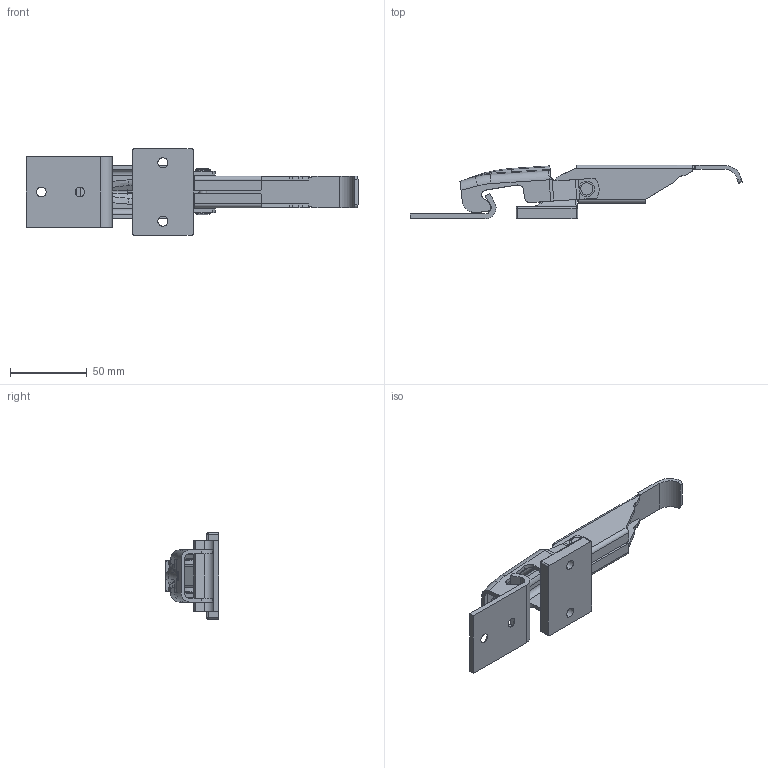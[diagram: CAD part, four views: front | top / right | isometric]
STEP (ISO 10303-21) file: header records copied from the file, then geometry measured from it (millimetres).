
FILE_DESCRIPTION (( 'STEP AP203' ), '1' );
FILE_NAME ('C-235.STEP', '2017-06-01T04:40:31', ( '' ), ( '' ), 'SwSTEP 2.0', 'SolidWorks 2014', '' );
FILE_SCHEMA (( 'CONFIG_CONTROL_DESIGN' ));
Length unit declared in the file: millimetre
Products named in the file (7): C-235; C-235_アーム; C-235_φ６ピン; C-235_ハンドル; C-235_薄丸セミチューブラリベット; C-235_台座; C-235_受け
Assembly tree (6 placements, depth 2):
  C-235
    C-235_台座
    C-235_アーム
    C-235_ハンドル
    C-235_受け
    C-235_φ６ピン
    C-235_薄丸セミチューブラリベット
Bounding box: 216.04 x 35 x 56 mm (x, y, z)
Volume: 58855.1 mm3; surface area: 37588.3 mm2
Topology: 6 solids, 6 shells, 288 faces, 738 edges, 461 vertices
Faces by surface type: cylinder 125, plane 97, bspline 28, cone 16, torus 16, sphere 6
Entity records: 10306 total; most frequent: CARTESIAN_POINT 2685, ORIENTED_EDGE 1468, DIRECTION 1446, EDGE_CURVE 734, AXIS2_PLACEMENT_3D 543, VERTEX_POINT 461, LINE 360, VECTOR 360
